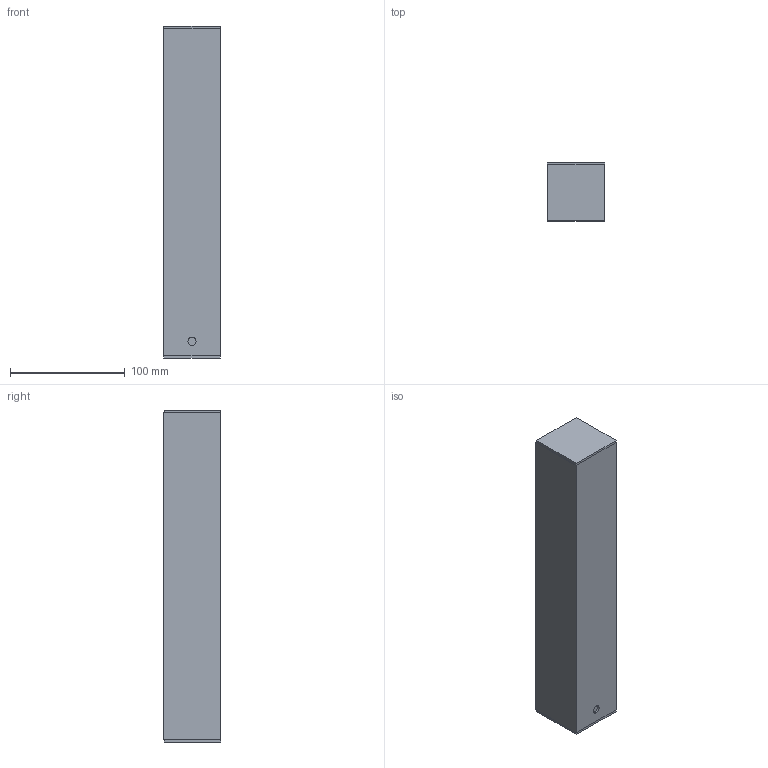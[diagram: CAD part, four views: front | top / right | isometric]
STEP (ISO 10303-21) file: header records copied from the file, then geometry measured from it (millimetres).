
FILE_DESCRIPTION (( 'STEP AP214' ), '1' );
FILE_NAME ('3D_POWER_SUPPLY_60W.STEP', '2018-04-09T12:36:37', ( 'Utente' ), ( '' ), 'SwSTEP 2.0', 'SolidWorks 2016', '' );
FILE_SCHEMA (( 'AUTOMOTIVE_DESIGN' ));
Length unit declared in the file: millimetre
Products named in the file (2): Group1^ROS_60W; 3D_POWER_SUPPLY_60W
Assembly tree (1 placements, depth 2):
  3D_POWER_SUPPLY_60W
    Group1^ROS_60W
Bounding box: 50 x 50 x 289 mm (x, y, z)
Volume: 722027 mm3; surface area: 62828 mm2
Topology: 1 solids, 1 shells, 19 faces, 44 edges, 28 vertices
Faces by surface type: plane 17, cylinder 2
Entity records: 596 total; most frequent: CARTESIAN_POINT 95, DIRECTION 94, ORIENTED_EDGE 88, EDGE_CURVE 44, LINE 40, VECTOR 40, VERTEX_POINT 28, AXIS2_PLACEMENT_3D 27
